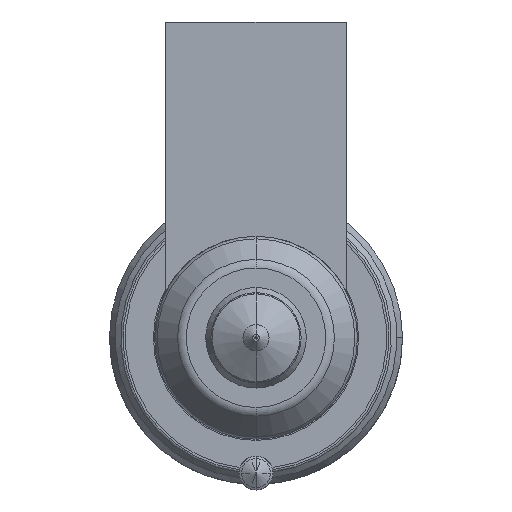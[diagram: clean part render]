
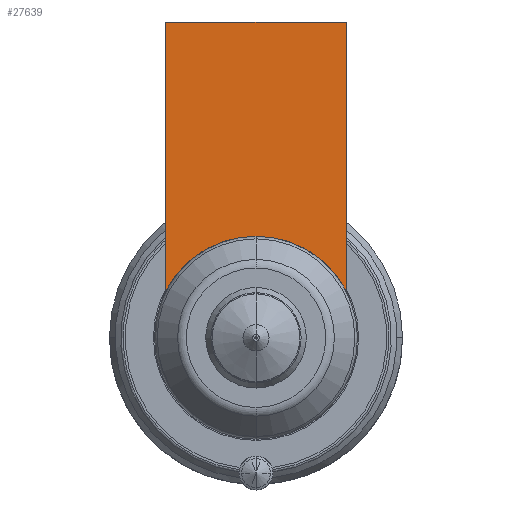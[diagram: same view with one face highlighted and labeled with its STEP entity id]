
A CAD part, front view. The second image highlights one B-rep face of the part: STEP entity #27639.
In plain terms, the highlighted planar face has unit normal (0, -1, 0).
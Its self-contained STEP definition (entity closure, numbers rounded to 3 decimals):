
#26822=CARTESIAN_POINT('',(0.,-54.,0.));
#26823=DIRECTION('',(0.,-1.,0.));
#26824=DIRECTION('',(0.,0.,1.));
#26825=AXIS2_PLACEMENT_3D('',#26822,#26823,#26824);
#26831=DIRECTION('',(1.,0.,0.));
#26832=VECTOR('',#26831,16.);
#26833=CARTESIAN_POINT('',(-8.,-54.,28.));
#26834=LINE('',#26833,#26832);
#26838=CARTESIAN_POINT('',(0.,-54.,0.));
#26839=DIRECTION('',(0.,-1.,0.));
#26840=DIRECTION('',(0.889,0.,0.458));
#26841=AXIS2_PLACEMENT_3D('',#26838,#26839,#26840);
#26993=DIRECTION('',(0.,0.,-1.));
#26994=VECTOR('',#26993,23.877);
#26995=CARTESIAN_POINT('',(8.,-54.,28.));
#26996=LINE('',#26995,#26994);
#27056=DIRECTION('',(0.,0.,-1.));
#27057=VECTOR('',#27056,23.877);
#27058=CARTESIAN_POINT('',(-8.,-54.,28.));
#27059=LINE('',#27058,#27057);
#27597=CARTESIAN_POINT('',(-8.,-54.,28.));
#27598=VERTEX_POINT('',#27597);
#27603=CARTESIAN_POINT('',(8.,-54.,28.));
#27604=VERTEX_POINT('',#27603);
#27609=CARTESIAN_POINT('',(0.,-54.,9.));
#27610=CARTESIAN_POINT('',(-8.,-54.,4.123));
#27611=VERTEX_POINT('',#27609);
#27612=VERTEX_POINT('',#27610);
#27613=CARTESIAN_POINT('',(8.,-54.,4.123));
#27614=VERTEX_POINT('',#27613);
#27622=CARTESIAN_POINT('',(0.,-54.,9.));
#27623=DIRECTION('',(0.,1.,0.));
#27624=DIRECTION('',(0.,0.,-1.));
#27625=AXIS2_PLACEMENT_3D('',#27622,#27623,#27624);
#27626=PLANE('',#27625);
#27628=ORIENTED_EDGE('',*,*,#27627,.T.);
#27630=ORIENTED_EDGE('',*,*,#27629,.F.);
#27632=ORIENTED_EDGE('',*,*,#27631,.T.);
#27634=ORIENTED_EDGE('',*,*,#27633,.T.);
#27636=ORIENTED_EDGE('',*,*,#27635,.T.);
#27637=EDGE_LOOP('',(#27628,#27630,#27632,#27634,#27636));
#27638=FACE_OUTER_BOUND('',#27637,.F.);
#27639=ADVANCED_FACE('',(#27638),#27626,.F.);
#26826=CIRCLE('',#26825,9.);
#26842=CIRCLE('',#26841,9.);
#27627=EDGE_CURVE('',#27611,#27612,#26826,.T.);
#27629=EDGE_CURVE('',#27598,#27612,#27059,.T.);
#27631=EDGE_CURVE('',#27598,#27604,#26834,.T.);
#27633=EDGE_CURVE('',#27604,#27614,#26996,.T.);
#27635=EDGE_CURVE('',#27614,#27611,#26842,.T.);
